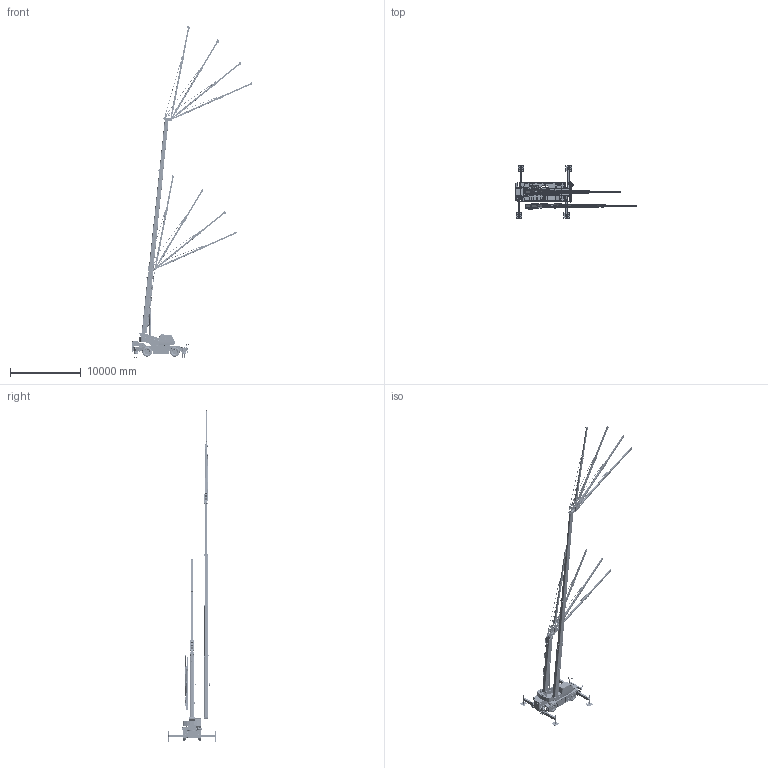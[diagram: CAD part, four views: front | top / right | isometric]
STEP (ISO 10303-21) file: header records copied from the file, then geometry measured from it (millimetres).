
FILE_DESCRIPTION(('CATIA V5 STEP Exchange','CAx-IF Rec.Pracs.--- Model Styling and Organization---1.4--- 2014-01-23'),'2;1');
FILE_NAME('\\iba001\CAD\CR\HP用CADデータ\22A\3D\SR-250Rf2 3D.stp','2022-08-01T06:39:29+00:00',('none'),('none'),'CATIA Version 5-6 Release 2017 SP5 HF78','CATIA V5 STEP AP214','none');
FILE_SCHEMA(('AUTOMOTIVE_DESIGN { 1 0 10303 214 1 1 1 1 }'));
Products named in the file (35): SR-250Rf2 3D; SR-250Rf2 BOOM; SR-250Rf2 BOOM Min; SR-250Rf2 BOOM1; SR-250Rf BOOM2; SR-250Rf BOOM3; SR-250Rf BOOM4; SR-250Rf2 BOOM Max; SR-250Rf2 JIB Stowed; SR-250Rf JIB1; SR-250Rf2 JIB2; SR-250Rf JIB3; SR-250Rf2 JIB TENSION ROD Stowed; SR-250Rf2 JIB; SR-250Rf2 JIB 8.7m 5deg; SR-250Rf2 JIB TENSION ROD; SR-250Rf2 JIB 8.7m 25deg; SR-250Rf2 JIB 8.7m 45deg; SR-250Rf2 JIB 8.7m 60deg; SR-250Rf2 JIB 13.1m 5deg; SR-250Rf2 JIB 13.1m 25deg; SR-250Rf2 JIB 13.1m 45deg; SR-250Rf2 JIB 13.1m 60deg; SR-250Rf2 UPPER; SR-250Rf2 UPPER STRUCTURE; SR250Rf2 TABLE; SR250Rf2 CAB; SR250Rf2 MACHINE ROOM; SR250Rf2 DERRICK CYLINDER-1; SR250Rf2 DERRICK CYLINDER-2; SR-250Rf2 CARRIER H Type; SR250Rf2 CHASSIS H Type; SR250Rf2 FENDER; SR250Rf2 BEAM H; SR-250Rf SEAT-OUTRIGGER 800X800X20
Assembly tree (76 placements, depth 5):
  SR-250Rf2 3D
    SR-250Rf2 BOOM
      SR-250Rf2 BOOM Min
        SR-250Rf2 BOOM1
        SR-250Rf BOOM2
        SR-250Rf BOOM3
        SR-250Rf BOOM4
      SR-250Rf2 BOOM Max
        SR-250Rf2 BOOM1
        SR-250Rf BOOM2
        SR-250Rf BOOM3
        SR-250Rf BOOM4
      SR-250Rf2 JIB Stowed
        SR-250Rf JIB1
        SR-250Rf2 JIB2
        SR-250Rf JIB3
        SR-250Rf2 JIB TENSION ROD Stowed
      SR-250Rf2 JIB  x2
        SR-250Rf2 JIB 8.7m 5deg
          SR-250Rf JIB1
          SR-250Rf2 JIB2
          SR-250Rf JIB3
          SR-250Rf2 JIB TENSION ROD
        SR-250Rf2 JIB 8.7m 25deg
          SR-250Rf JIB1
          SR-250Rf2 JIB2
          SR-250Rf JIB3
          SR-250Rf2 JIB TENSION ROD
        SR-250Rf2 JIB 8.7m 45deg
          SR-250Rf JIB1
          SR-250Rf2 JIB2
          SR-250Rf JIB3
          SR-250Rf2 JIB TENSION ROD
        SR-250Rf2 JIB 8.7m 60deg
          SR-250Rf JIB1
          SR-250Rf2 JIB2
          SR-250Rf JIB3
          SR-250Rf2 JIB TENSION ROD
        SR-250Rf2 JIB 13.1m 5deg
          SR-250Rf JIB1
          SR-250Rf2 JIB2
          SR-250Rf JIB3
          SR-250Rf2 JIB TENSION ROD
        SR-250Rf2 JIB 13.1m 25deg
          SR-250Rf JIB1
          SR-250Rf2 JIB2
          SR-250Rf JIB3
          SR-250Rf2 JIB TENSION ROD
        SR-250Rf2 JIB 13.1m 45deg
          SR-250Rf JIB1
          SR-250Rf2 JIB2
          SR-250Rf JIB3
          SR-250Rf2 JIB TENSION ROD
        SR-250Rf2 JIB 13.1m 60deg
          SR-250Rf JIB1
          SR-250Rf2 JIB2
          SR-250Rf JIB3
          SR-250Rf2 JIB TENSION ROD
    SR-250Rf2 UPPER
      SR-250Rf2 UPPER STRUCTURE
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Bounding box: 17025.2 x 7400 x 46772.35 mm (x, y, z)
Volume: 51396964999 mm3; surface area: 682217252.8 mm2
Topology: 206 solids, 211 shells, 14828 faces, 40540 edges, 26335 vertices
Faces by surface type: plane 9798, cylinder 3449, extrusion 744, bspline 444, torus 253, revolution 62, cone 49, sphere 29
Entity records: 186123 total; most frequent: CARTESIAN_POINT 71044, ORIENTED_EDGE 27252, DIRECTION 16619, EDGE_CURVE 13626, VERTEX_POINT 8776, VECTOR 8164, LINE 7530, EDGE_LOOP 5497
